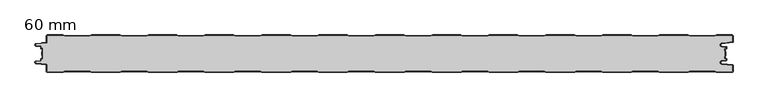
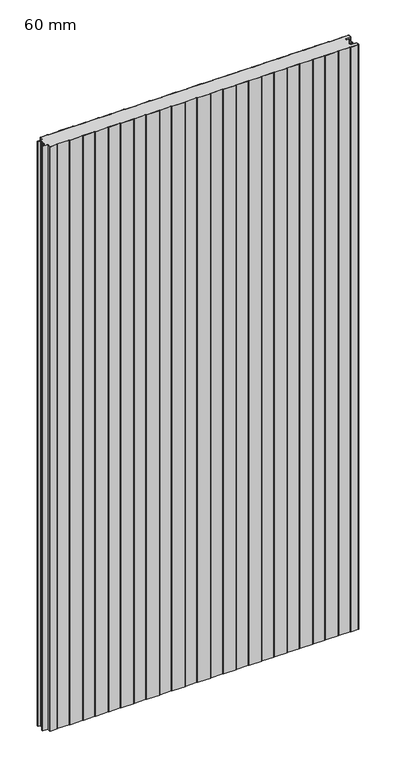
"""IFC4 building model written with IfcOpenShell, lengths in millimetres: plate geometry, HIANSA PANEL - H20.F06.007-ULTRA-PANEL FRIGORÍFICO - PANEL FRIGO - Panel de Muro Cortina : 60 mm."""

from ifc_helpers import new_model, si_unit, point, frame_2d, origin, origin_with_axes, place, context, project, spatial, polyline, circle_curve, trimmed, segment, composite_curve, outline, extrude, source, transform, mapped, element, save


def plate_60_mm_28918404(model_context):
    return source(origin(), model_context, "Body", "SweptSolid", [
        extrude(outline(polyline([(555.9827922, -34.0), (555.9827922, -26.0), (556.4221321, -26.6713576), (556.4221321, -33.3286424), (555.9827922, -34.0)])), origin_with_axes(), (0.0, 0.0, 1.0), 2200.0),
        extrude(outline(polyline([(-538.5172078, -26.0), (-538.5172078, -34.0), (-539.1172077, -32.9695032), (-539.1172077, -27.0304968), (-538.5172078, -26.0)])), origin_with_axes(), (0.0, 0.0, 1.0), 2200.0),
        extrude(outline(composite_curve([segment(polyline([(-370.9360691, -1.5), (-411.0983467, -1.5), (-414.0983467, -0.5), (-458.9360691, -0.5), (-461.9360691, -1.5), (-502.0983467, -1.5), (-505.0983467, -0.5), (-529.9172079, -0.5)]), True, "CONTINUOUS"), segment(trimmed(circle_curve(frame_2d((-529.9172079, -1.6)), 1.1), [point((-529.9172079, -0.5))], [point((-531.0172079, -1.6))], True, "CARTESIAN"), True, "CONTINUOUS"), segment(polyline([(-531.0172079, -1.6), (-531.0172079, -11.7987531)]), True, "CONTINUOUS"), segment(trimmed(circle_curve(frame_2d((-532.0172079, -11.7987531)), 1.0), [point((-531.0172079, -11.7987531))], [point((-531.9177042, -12.7937903))], False, "CARTESIAN"), True, "CONTINUOUS"), segment(polyline([(-531.9177042, -12.7937903), (-548.0592062, -14.4079404)]), True, "CONTINUOUS"), segment(trimmed(circle_curve(frame_2d((-547.9000002, -15.9999999)), 1.6), [point((-548.0592062, -14.4079404))], [point((-548.0592062, -17.5920594))], True, "CARTESIAN"), True, "CONTINUOUS"), segment(polyline([(-548.0592062, -17.5920594), (-541.4177042, -18.2562097)]), True, "CONTINUOUS"), segment(trimmed(circle_curve(frame_2d((-541.5172079, -19.2512469)), 1.0), [point((-541.4177042, -18.2562097))], [point((-540.5172079, -19.2512469))], False, "CARTESIAN"), True, "CONTINUOUS"), segment(polyline([(-540.5172079, -19.2512469), (-540.5172079, -21.5), (-539.0172079, -21.5)]), True, "CONTINUOUS"), segment(trimmed(circle_curve(frame_2d((-539.0172079, -22.5)), 1.0), [point((-539.0172079, -21.5))], [point((-538.0172079, -22.5))], False, "CARTESIAN"), True, "CONTINUOUS"), segment(polyline([(-538.0172079, -22.5), (-538.0172079, -25.1412526), (-538.5172079, -26.0), (-538.5172079, -22.0), (-540.0172079, -22.0)]), True, "CONTINUOUS"), segment(trimmed(circle_curve(frame_2d((-540.0172079, -21.0)), 1.0), [point((-540.0172079, -22.0))], [point((-541.0172079, -21.0))], False, "CARTESIAN"), True, "CONTINUOUS"), segment(polyline([(-541.0172079, -21.0), (-541.0172079, -18.7987531), (-548.1089579, -18.0895783)]), True, "CONTINUOUS"), segment(trimmed(circle_curve(frame_2d((-547.9000002, -16.0000002)), 2.1), [point((-548.1089579, -18.0895783))], [point((-548.108958, -13.9104221))], False, "CARTESIAN"), True, "CONTINUOUS"), segment(polyline([(-548.108958, -13.9104221), (-531.5172079, -12.2512469), (-531.5172079, -1.6)]), True, "CONTINUOUS"), segment(trimmed(circle_curve(frame_2d((-529.9172079, -1.6)), 1.6), [point((-531.5172079, -1.6))], [point((-529.9172079, 0.0))], False, "CARTESIAN"), True, "CONTINUOUS"), segment(polyline([(-529.9172079, 0.0), (-505.0172079, 0.0), (-502.0172079, -1.0), (-462.0172079, -1.0), (-459.0172079, 0.0), (-414.0172079, 0.0), (-411.0172079, -1.0), (-371.0172079, -1.0), (-368.0172079, 0.0), (-323.0172079, 0.0), (-320.0172079, -1.0), (-280.0172079, -1.0), (-277.0172079, 0.0), (-232.0172079, 0.0), (-229.0172079, -1.0), (-189.0172079, -1.0), (-186.0172079, 0.0), (-141.0172079, 0.0), (-138.0172079, -1.0), (-98.0172079, -1.0), (-95.0172079, 0.0), (-50.0172079, 0.0), (-47.0172079, -1.0), (-7.0172079, -1.0), (-4.0172079, 0.0), (40.9827921, 0.0), (43.9827921, -1.0), (83.9827921, -1.0), (86.9827921, 0.0), (131.9827921, 0.0), (134.9827921, -1.0), (174.9827921, -1.0), (177.9827921, 0.0), (222.9827921, 0.0), (225.9827921, -1.0), (265.9827921, -1.0), (268.9827921, 0.0), (313.9827921, 0.0), (316.9827921, -1.0), (356.9827921, -1.0), (359.9827921, 0.0), (404.9827921, 0.0), (407.9827921, -1.0), (447.9827921, -1.0), (450.9827921, 0.0), (495.9827921, 0.0), (498.9827921, -1.0), (538.9827921, -1.0), (541.9827921, 0.0), (566.8827921, 0.0)]), True, "CONTINUOUS"), segment(trimmed(circle_curve(frame_2d((566.8827921, -1.6)), 1.6), [point((566.8827921, 0.0))], [point((568.4827921, -1.6))], False, "CARTESIAN"), True, "CONTINUOUS"), segment(polyline([(568.4827921, -1.6), (568.4827921, -11.0950124)]), True, "CONTINUOUS"), segment(trimmed(circle_curve(frame_2d((567.4827921, -11.0950124)), 1.0), [point((568.4827921, -11.0950124))], [point((567.5822958, -12.0900496))], False, "CARTESIAN"), True, "CONTINUOUS"), segment(polyline([(567.5822958, -12.0900496), (550.2837847, -13.8199007)]), True, "CONTINUOUS"), segment(trimmed(circle_curve(frame_2d((550.5873461, -16.0)), 2.2011321), [point((550.2837847, -13.8199007))], [point((550.2837847, -18.1800993))], True, "CARTESIAN"), True, "CONTINUOUS"), segment(polyline([(550.2837847, -18.1800993), (557.5822958, -18.9099504)]), True, "CONTINUOUS"), segment(trimmed(circle_curve(frame_2d((557.4827921, -19.9049876)), 1.0), [point((557.5822958, -18.9099504))], [point((558.4827921, -19.9049876))], False, "CARTESIAN"), True, "CONTINUOUS"), segment(polyline([(558.4827921, -19.9049876), (558.4827921, -21.0)]), True, "CONTINUOUS"), segment(trimmed(circle_curve(frame_2d((557.4827921, -21.0)), 1.0), [point((558.4827921, -21.0))], [point((557.4827921, -22.0))], False, "CARTESIAN"), True, "CONTINUOUS"), segment(polyline([(557.4827921, -22.0), (555.9827921, -22.0), (555.9827921, -26.0), (555.4827921, -25.2359473), (555.4827921, -22.5)]), True, "CONTINUOUS"), segment(trimmed(circle_curve(frame_2d((556.4827921, -22.5)), 1.0), [point((555.4827921, -22.5))], [point((556.4827921, -21.5))], False, "CARTESIAN"), True, "CONTINUOUS"), segment(polyline([(556.4827921, -21.5), (557.9827921, -21.5), (557.9827921, -19.4524938), (550.2340328, -18.6776179)]), True, "CONTINUOUS"), segment(trimmed(circle_curve(frame_2d((550.5859823, -16.0)), 2.7006492), [point((550.2340328, -18.6776179))], [point((550.2340328, -13.3223821))], False, "CARTESIAN"), True, "CONTINUOUS"), segment(polyline([(550.2340328, -13.3223821), (567.9827921, -11.5475062), (567.9827921, -1.6)]), True, "CONTINUOUS"), segment(trimmed(circle_curve(frame_2d((566.8827921, -1.6)), 1.1), [point((567.9827921, -1.6))], [point((566.8827921, -0.5))], True, "CARTESIAN"), True, "CONTINUOUS"), segment(polyline([(566.8827921, -0.5), (542.0639309, -0.5), (539.0639309, -1.5), (498.9016533, -1.5), (495.9016533, -0.5), (451.0639309, -0.5), (448.0639309, -1.5), (407.9016533, -1.5), (404.9016533, -0.5), (360.0639309, -0.5), (357.0639309, -1.5), (316.9016533, -1.5), (313.9016533, -0.5), (269.0639309, -0.5), (266.0639309, -1.5), (225.9016533, -1.5), (222.9016533, -0.5), (178.0639309, -0.5), (175.0639309, -1.5), (134.9016533, -1.5), (131.9016533, -0.5), (87.0639309, -0.5), (84.0639309, -1.5), (43.9016533, -1.5), (40.9016533, -0.5), (-3.9360691, -0.5), (-6.9360691, -1.5), (-47.0983467, -1.5), (-50.0983467, -0.5), (-94.9360691, -0.5), (-97.9360691, -1.5), (-138.0983467, -1.5), (-141.0983467, -0.5), (-185.9360691, -0.5), (-188.9360691, -1.5), (-229.0983467, -1.5), (-232.0983467, -0.5), (-276.9360691, -0.5), (-279.9360691, -1.5), (-320.0983467, -1.5), (-323.0983467, -0.5), (-367.9360691, -0.5), (-370.9360691, -1.5)]), True, "CONTINUOUS")], self_intersect=False)), origin_with_axes(), (0.0, 0.0, 1.0), 2200.0),
        extrude(outline(composite_curve([segment(polyline([(-370.9360691, -58.5), (-367.9360691, -59.5), (-323.0983467, -59.5), (-320.0983467, -58.5), (-279.9360691, -58.5), (-276.9360691, -59.5), (-232.0983467, -59.5), (-229.0983467, -58.5), (-188.9360691, -58.5), (-185.9360691, -59.5), (-141.0983467, -59.5), (-138.0983467, -58.5), (-97.9360691, -58.5), (-94.9360691, -59.5), (-50.0983467, -59.5), (-47.0983467, -58.5), (-6.9360691, -58.5), (-3.9360691, -59.5), (40.9016533, -59.5), (43.9016533, -58.5), (84.0639309, -58.5), (87.0639309, -59.5), (131.9016533, -59.5), (134.9016533, -58.5), (175.0639309, -58.5), (178.0639309, -59.5), (222.9016533, -59.5), (225.9016533, -58.5), (266.0639309, -58.5), (269.0639309, -59.5), (313.9016533, -59.5), (316.9016533, -58.5), (357.0639309, -58.5), (360.0639309, -59.5), (404.9016533, -59.5), (407.9016533, -58.5), (448.0639309, -58.5), (451.0639309, -59.5), (495.9016533, -59.5), (498.9016533, -58.5), (539.0639309, -58.5), (542.0639309, -59.5), (566.8827921, -59.5)]), True, "CONTINUOUS"), segment(trimmed(circle_curve(frame_2d((566.8827921, -58.4)), 1.1), [point((566.8827921, -59.5))], [point((567.9827921, -58.4))], True, "CARTESIAN"), True, "CONTINUOUS"), segment(polyline([(567.9827921, -58.4), (567.9827921, -48.4524938), (550.2340328, -46.6776179)]), True, "CONTINUOUS"), segment(trimmed(circle_curve(frame_2d((550.5859823, -44.0)), 2.7006492), [point((550.2340328, -46.6776179))], [point((550.2340328, -41.3223821))], False, "CARTESIAN"), True, "CONTINUOUS"), segment(polyline([(550.2340328, -41.3223821), (557.9827921, -40.5475062), (557.9827921, -38.5), (556.4827921, -38.5)]), True, "CONTINUOUS"), segment(trimmed(circle_curve(frame_2d((556.4827921, -37.5)), 1.0), [point((556.4827921, -38.5))], [point((555.4827921, -37.5))], False, "CARTESIAN"), True, "CONTINUOUS"), segment(polyline([(555.4827921, -37.5), (555.4827921, -34.7640527), (555.9827921, -34.0), (555.9827921, -38.0), (557.4827921, -38.0)]), True, "CONTINUOUS"), segment(trimmed(circle_curve(frame_2d((557.4827921, -39.0)), 1.0), [point((557.4827921, -38.0))], [point((558.4827921, -39.0))], False, "CARTESIAN"), True, "CONTINUOUS"), segment(polyline([(558.4827921, -39.0), (558.4827921, -40.0950124)]), True, "CONTINUOUS"), segment(trimmed(circle_curve(frame_2d((557.4827921, -40.0950124)), 1.0), [point((558.4827921, -40.0950124))], [point((557.5822958, -41.0900496))], False, "CARTESIAN"), True, "CONTINUOUS"), segment(polyline([(557.5822958, -41.0900496), (550.2837847, -41.8199007)]), True, "CONTINUOUS"), segment(trimmed(circle_curve(frame_2d((550.5873461, -44.0)), 2.2011321), [point((550.2837847, -41.8199007))], [point((550.2837847, -46.1800993))], True, "CARTESIAN"), True, "CONTINUOUS"), segment(polyline([(550.2837847, -46.1800993), (567.5822958, -47.9099504)]), True, "CONTINUOUS"), segment(trimmed(circle_curve(frame_2d((567.4827921, -48.9049876)), 1.0), [point((567.5822958, -47.9099504))], [point((568.4827921, -48.9049876))], False, "CARTESIAN"), True, "CONTINUOUS"), segment(polyline([(568.4827921, -48.9049876), (568.4827921, -58.4)]), True, "CONTINUOUS"), segment(trimmed(circle_curve(frame_2d((566.8827921, -58.4)), 1.6), [point((568.4827921, -58.4))], [point((566.8827921, -60.0))], False, "CARTESIAN"), True, "CONTINUOUS"), segment(polyline([(566.8827921, -60.0), (541.9827921, -60.0), (538.9827921, -59.0), (498.9827921, -59.0), (495.9827921, -60.0), (450.9827921, -60.0), (447.9827921, -59.0), (407.9827921, -59.0), (404.9827921, -60.0), (359.9827921, -60.0), (356.9827921, -59.0), (316.9827921, -59.0), (313.9827921, -60.0), (268.9827921, -60.0), (265.9827921, -59.0), (225.9827921, -59.0), (222.9827921, -60.0), (177.9827921, -60.0), (174.9827921, -59.0), (134.9827921, -59.0), (131.9827921, -60.0), (86.9827921, -60.0), (83.9827921, -59.0), (43.9827921, -59.0), (40.9827921, -60.0), (-4.0172079, -60.0), (-7.0172079, -59.0), (-47.0172079, -59.0), (-50.0172079, -60.0), (-95.0172079, -60.0), (-98.0172079, -59.0), (-138.0172079, -59.0), (-141.0172079, -60.0), (-186.0172079, -60.0), (-189.0172079, -59.0), (-229.0172079, -59.0), (-232.0172079, -60.0), (-277.0172079, -60.0), (-280.0172079, -59.0), (-320.0172079, -59.0), (-323.0172079, -60.0), (-368.0172079, -60.0), (-371.0172079, -59.0), (-411.0172079, -59.0), (-414.0172079, -60.0), (-459.0172079, -60.0), (-462.0172079, -59.0), (-502.0172079, -59.0), (-505.0172079, -60.0), (-529.9172079, -60.0)]), True, "CONTINUOUS"), segment(trimmed(circle_curve(frame_2d((-529.9172079, -58.4)), 1.6), [point((-529.9172079, -60.0))], [point((-531.5172079, -58.4))], False, "CARTESIAN"), True, "CONTINUOUS"), segment(polyline([(-531.5172079, -58.4), (-531.5172079, -47.7487531), (-548.108958, -46.0895779)]), True, "CONTINUOUS"), segment(trimmed(circle_curve(frame_2d((-547.9000002, -43.9999998)), 2.1), [point((-548.108958, -46.0895779))], [point((-548.1089579, -41.9104217))], False, "CARTESIAN"), True, "CONTINUOUS"), segment(polyline([(-548.1089579, -41.9104217), (-541.0172079, -41.2012469), (-541.0172079, -39.0)]), True, "CONTINUOUS"), segment(trimmed(circle_curve(frame_2d((-540.0172079, -39.0)), 1.0), [point((-541.0172079, -39.0))], [point((-540.0172079, -38.0))], False, "CARTESIAN"), True, "CONTINUOUS"), segment(polyline([(-540.0172079, -38.0), (-538.5172079, -38.0), (-538.5172079, -34.0), (-538.0172079, -34.8587474), (-538.0172079, -37.5)]), True, "CONTINUOUS"), segment(trimmed(circle_curve(frame_2d((-539.0172079, -37.5)), 1.0), [point((-538.0172079, -37.5))], [point((-539.0172079, -38.5))], False, "CARTESIAN"), True, "CONTINUOUS"), segment(polyline([(-539.0172079, -38.5), (-540.5172079, -38.5), (-540.5172079, -40.7487531)]), True, "CONTINUOUS"), segment(trimmed(circle_curve(frame_2d((-541.5172079, -40.7487531)), 1.0), [point((-540.5172079, -40.7487531))], [point((-541.4177042, -41.7437903))], False, "CARTESIAN"), True, "CONTINUOUS"), segment(polyline([(-541.4177042, -41.7437903), (-548.0592062, -42.4079406)]), True, "CONTINUOUS"), segment(trimmed(circle_curve(frame_2d((-547.9000002, -44.0000001)), 1.6), [point((-548.0592062, -42.4079406))], [point((-548.0592062, -45.5920596))], True, "CARTESIAN"), True, "CONTINUOUS"), segment(polyline([(-548.0592062, -45.5920596), (-531.9177042, -47.2062097)]), True, "CONTINUOUS"), segment(trimmed(circle_curve(frame_2d((-532.0172079, -48.2012469)), 1.0), [point((-531.9177042, -47.2062097))], [point((-531.0172079, -48.2012469))], False, "CARTESIAN"), True, "CONTINUOUS"), segment(polyline([(-531.0172079, -48.2012469), (-531.0172079, -58.4)]), True, "CONTINUOUS"), segment(trimmed(circle_curve(frame_2d((-529.9172079, -58.4)), 1.1), [point((-531.0172079, -58.4))], [point((-529.9172079, -59.5))], True, "CARTESIAN"), True, "CONTINUOUS"), segment(polyline([(-529.9172079, -59.5), (-505.0983467, -59.5), (-502.0983467, -58.5), (-461.9360691, -58.5), (-458.9360691, -59.5), (-414.0983467, -59.5), (-411.0983467, -58.5), (-370.9360691, -58.5)]), True, "CONTINUOUS")], self_intersect=False)), origin_with_axes(), (0.0, 0.0, 1.0), 2200.0),
        extrude(outline(composite_curve([segment(polyline([(-461.936069, -1.5), (-458.936069, -0.5), (-414.0983467, -0.5), (-411.0983467, -1.5), (-370.936069, -1.5), (-367.936069, -0.5), (-323.0983467, -0.5), (-320.0983467, -1.5), (-279.936069, -1.5), (-276.936069, -0.5), (-232.0983467, -0.5), (-229.0983467, -1.5), (-188.936069, -1.5), (-185.936069, -0.5), (-141.0983467, -0.5), (-138.0983467, -1.5), (-97.936069, -1.5), (-94.936069, -0.5), (-50.0983467, -0.5), (-47.0983467, -1.5), (-6.936069, -1.5), (-3.936069, -0.5), (40.9016533, -0.5), (43.9016533, -1.5), (84.063931, -1.5), (87.063931, -0.5), (131.9016533, -0.5), (134.9016533, -1.5), (175.063931, -1.5), (178.063931, -0.5), (222.9016533, -0.5), (225.9016533, -1.5), (266.063931, -1.5), (269.063931, -0.5), (313.9016533, -0.5), (316.9016533, -1.5), (357.063931, -1.5), (360.063931, -0.5), (404.9016533, -0.5), (407.9016533, -1.5), (448.063931, -1.5), (451.063931, -0.5), (495.9016533, -0.5), (498.9016533, -1.5), (539.063931, -1.5), (542.063931, -0.5), (566.8827921, -0.5)]), True, "CONTINUOUS"), segment(trimmed(circle_curve(frame_2d((566.8827921, -1.6)), 1.1), [point((566.8827921, -0.5))], [point((567.9827921, -1.6))], False, "CARTESIAN"), True, "CONTINUOUS"), segment(polyline([(567.9827921, -1.6), (567.9827921, -11.5475062), (550.2340328, -13.3223821)]), True, "CONTINUOUS"), segment(trimmed(circle_curve(frame_2d((550.5859824, -16.0)), 2.7006492), [point((550.2340328, -13.3223821))], [point((550.2340328, -18.6776179))], True, "CARTESIAN"), True, "CONTINUOUS"), segment(polyline([(550.2340328, -18.6776179), (557.9827921, -19.4524938), (557.9827921, -21.5), (556.4827921, -21.5)]), True, "CONTINUOUS"), segment(trimmed(circle_curve(frame_2d((556.4827921, -22.5)), 1.0), [point((556.4827921, -21.5))], [point((555.4827921, -22.5))], True, "CARTESIAN"), True, "CONTINUOUS"), segment(polyline([(555.4827921, -22.5), (555.4827921, -25.2359473), (555.9827921, -26.0), (555.9827921, -34.0), (555.4827921, -34.7640527), (555.4827921, -37.5)]), True, "CONTINUOUS"), segment(trimmed(circle_curve(frame_2d((556.4827921, -37.5)), 1.0), [point((555.4827921, -37.5))], [point((556.4827921, -38.5))], True, "CARTESIAN"), True, "CONTINUOUS"), segment(polyline([(556.4827921, -38.5), (557.9827921, -38.5), (557.9827921, -40.5475062), (550.2340328, -41.3223821)]), True, "CONTINUOUS"), segment(trimmed(circle_curve(frame_2d((550.5859824, -44.0)), 2.7006492), [point((550.2340328, -41.3223821))], [point((550.2340328, -46.6776179))], True, "CARTESIAN"), True, "CONTINUOUS"), segment(polyline([(550.2340328, -46.6776179), (567.9827921, -48.4524938), (567.9827921, -58.4)]), True, "CONTINUOUS"), segment(trimmed(circle_curve(frame_2d((566.8827921, -58.4)), 1.1), [point((567.9827921, -58.4))], [point((566.8827921, -59.5))], False, "CARTESIAN"), True, "CONTINUOUS"), segment(polyline([(566.8827921, -59.5), (542.063931, -59.5), (539.063931, -58.5), (498.9016533, -58.5), (495.9016533, -59.5), (451.063931, -59.5), (448.063931, -58.5), (407.9016533, -58.5), (404.9016533, -59.5), (360.063931, -59.5), (357.063931, -58.5), (316.9016533, -58.5), (313.9016533, -59.5), (269.063931, -59.5), (266.063931, -58.5), (225.9016533, -58.5), (222.9016533, -59.5), (178.063931, -59.5), (175.063931, -58.5), (134.9016533, -58.5), (131.9016533, -59.5), (87.063931, -59.5), (84.063931, -58.5), (43.9016533, -58.5), (40.9016533, -59.5), (-3.936069, -59.5), (-6.936069, -58.5), (-47.0983467, -58.5), (-50.0983467, -59.5), (-94.936069, -59.5), (-97.936069, -58.5), (-138.0983467, -58.5), (-141.0983467, -59.5), (-185.936069, -59.5), (-188.936069, -58.5), (-229.0983467, -58.5), (-232.0983467, -59.5), (-276.936069, -59.5), (-279.936069, -58.5), (-320.0983467, -58.5), (-323.0983467, -59.5), (-367.936069, -59.5), (-370.936069, -58.5), (-411.0983467, -58.5), (-414.0983467, -59.5), (-458.936069, -59.5), (-461.936069, -58.5), (-502.0983467, -58.5), (-505.0983467, -59.5), (-529.9172079, -59.5)]), True, "CONTINUOUS"), segment(trimmed(circle_curve(frame_2d((-529.9172079, -58.4)), 1.1), [point((-529.9172079, -59.5))], [point((-531.0172079, -58.4))], False, "CARTESIAN"), True, "CONTINUOUS"), segment(polyline([(-531.0172079, -58.4), (-531.0172079, -48.2012469)]), True, "CONTINUOUS"), segment(trimmed(circle_curve(frame_2d((-532.0172079, -48.2012469)), 1.0), [point((-531.0172079, -48.2012469))], [point((-531.9177042, -47.2062097))], True, "CARTESIAN"), True, "CONTINUOUS"), segment(polyline([(-531.9177042, -47.2062097), (-548.0592062, -45.5920596)]), True, "CONTINUOUS"), segment(trimmed(circle_curve(frame_2d((-547.9000002, -44.0000001)), 1.6), [point((-548.0592062, -45.5920596))], [point((-548.0592062, -42.4079406))], False, "CARTESIAN"), True, "CONTINUOUS"), segment(polyline([(-548.0592062, -42.4079406), (-541.4177041, -41.7437903)]), True, "CONTINUOUS"), segment(trimmed(circle_curve(frame_2d((-541.5172079, -40.7487531)), 1.0), [point((-541.4177041, -41.7437903))], [point((-540.5172079, -40.7487531))], True, "CARTESIAN"), True, "CONTINUOUS"), segment(polyline([(-540.5172079, -40.7487531), (-540.5172079, -38.5), (-539.0172079, -38.5)]), True, "CONTINUOUS"), segment(trimmed(circle_curve(frame_2d((-539.0172079, -37.5)), 1.0), [point((-539.0172079, -38.5))], [point((-538.0172079, -37.5))], True, "CARTESIAN"), True, "CONTINUOUS"), segment(polyline([(-538.0172079, -37.5), (-538.0172079, -34.8587474), (-538.5172079, -34.0), (-538.5172079, -26.0), (-538.0172079, -25.1412526), (-538.0172079, -22.5)]), True, "CONTINUOUS"), segment(trimmed(circle_curve(frame_2d((-539.0172079, -22.5)), 1.0), [point((-538.0172079, -22.5))], [point((-539.0172079, -21.5))], True, "CARTESIAN"), True, "CONTINUOUS"), segment(polyline([(-539.0172079, -21.5), (-540.5172079, -21.5), (-540.5172079, -19.2512469)]), True, "CONTINUOUS"), segment(trimmed(circle_curve(frame_2d((-541.5172079, -19.2512469)), 1.0), [point((-540.5172079, -19.2512469))], [point((-541.4177041, -18.2562097))], True, "CARTESIAN"), True, "CONTINUOUS"), segment(polyline([(-541.4177041, -18.2562097), (-548.0592062, -17.5920594)]), True, "CONTINUOUS"), segment(trimmed(circle_curve(frame_2d((-547.9000003, -15.9999999)), 1.6), [point((-548.0592062, -17.5920594))], [point((-548.0592062, -14.4079404))], False, "CARTESIAN"), True, "CONTINUOUS"), segment(polyline([(-548.0592062, -14.4079404), (-531.9177042, -12.7937903)]), True, "CONTINUOUS"), segment(trimmed(circle_curve(frame_2d((-532.0172079, -11.7987531)), 1.0), [point((-531.9177042, -12.7937903))], [point((-531.0172079, -11.7987531))], True, "CARTESIAN"), True, "CONTINUOUS"), segment(polyline([(-531.0172079, -11.7987531), (-531.0172079, -1.6)]), True, "CONTINUOUS"), segment(trimmed(circle_curve(frame_2d((-529.9172079, -1.6)), 1.1), [point((-531.0172079, -1.6))], [point((-529.9172079, -0.5))], False, "CARTESIAN"), True, "CONTINUOUS"), segment(polyline([(-529.9172079, -0.5), (-505.0983467, -0.5), (-502.0983467, -1.5), (-461.936069, -1.5)]), True, "CONTINUOUS")], self_intersect=False)), origin_with_axes(), (0.0, 0.0, 1.0), 2200.0),
    ])


if __name__ == "__main__":
    model = new_model("IFC4")
    model_context = context("Model", 3, world=origin())
    ifc_project = project(units=[si_unit("LENGTHUNIT", "METRE", prefix="MILLI")], contexts=[model_context])
    site = spatial("IfcSite", under=ifc_project)
    building = spatial("IfcBuilding", under=site)
    placement = place(None, origin())
    plate_60_mm_shape = plate_60_mm_28918404(model_context)
    element("IfcPlate", 1, ObjectType="HIANSA PANEL - H20.F06.007-ULTRA-PANEL FRIGORÍFICO - PANEL FRIGO - Panel de Muro Cortina : 60 mm", at=placement, inside=building, context=model_context, shape_type="MappedRepresentation", body=[
        mapped(plate_60_mm_shape, transform((0.0, 0.0, 0.0), x_axis=(1.0, 0.0, 0.0), y_axis=(0.0, 1.0, 0.0), z_axis=(0.0, 0.0, 1.0))),
    ])
    save(model, "model.ifc")
